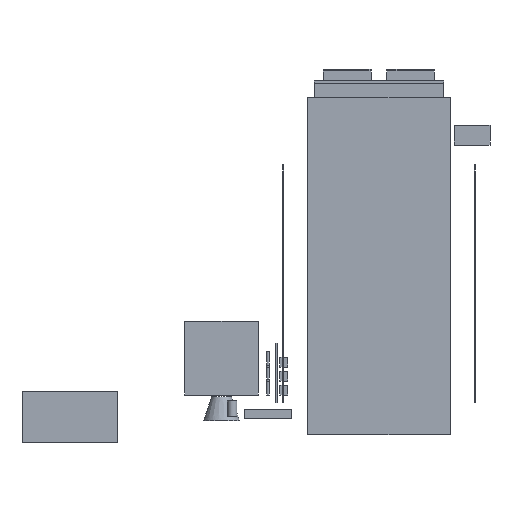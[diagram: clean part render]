
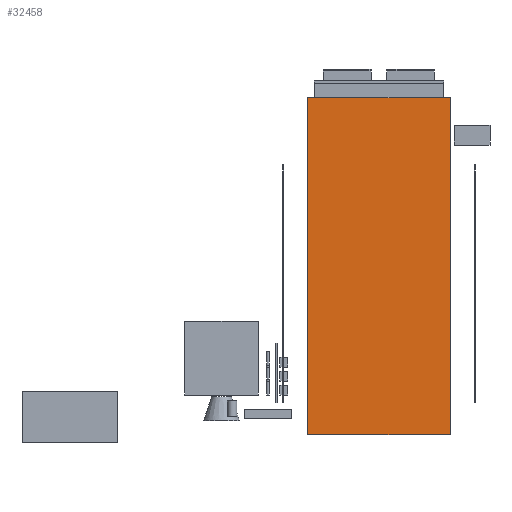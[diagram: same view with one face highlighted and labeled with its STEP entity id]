
A CAD part, front view. The second image highlights one B-rep face of the part: STEP entity #32458.
In plain terms, the highlighted planar face has unit normal (0, -1, 0).
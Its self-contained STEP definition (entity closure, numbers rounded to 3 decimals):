
#32242 = EDGE_CURVE('',#32243,#32245,#32247,.T.);
#32243 = VERTEX_POINT('',#32244);
#32244 = CARTESIAN_POINT('',(-180.,-36.,-80.));
#32245 = VERTEX_POINT('',#32246);
#32246 = CARTESIAN_POINT('',(-180.,-36.,770.));
#32247 = SURFACE_CURVE('',#32248,(#32252,#32264),.PCURVE_S1.);
#32248 = LINE('',#32249,#32250);
#32249 = CARTESIAN_POINT('',(-180.,-36.,-80.));
#32250 = VECTOR('',#32251,1.);
#32251 = DIRECTION('',(0.,0.,1.));
#32252 = PCURVE('',#32253,#32258);
#32253 = PLANE('',#32254);
#32254 = AXIS2_PLACEMENT_3D('',#32255,#32256,#32257);
#32255 = CARTESIAN_POINT('',(-180.,-36.,-80.));
#32256 = DIRECTION('',(1.,0.,0.));
#32257 = DIRECTION('',(0.,0.,1.));
#32258 = DEFINITIONAL_REPRESENTATION('',(#32259),#32263);
#32259 = LINE('',#32260,#32261);
#32260 = CARTESIAN_POINT('',(0.,0.));
#32261 = VECTOR('',#32262,1.);
#32262 = DIRECTION('',(1.,0.));
#32263 = ( GEOMETRIC_REPRESENTATION_CONTEXT(2) 
PARAMETRIC_REPRESENTATION_CONTEXT() REPRESENTATION_CONTEXT('2D SPACE',''
  ) );
#32264 = PCURVE('',#32265,#32270);
#32265 = PLANE('',#32266);
#32266 = AXIS2_PLACEMENT_3D('',#32267,#32268,#32269);
#32267 = CARTESIAN_POINT('',(-180.,-36.,-80.));
#32268 = DIRECTION('',(0.,1.,0.));
#32269 = DIRECTION('',(0.,0.,1.));
#32270 = DEFINITIONAL_REPRESENTATION('',(#32271),#32275);
#32271 = LINE('',#32272,#32273);
#32272 = CARTESIAN_POINT('',(0.,0.));
#32273 = VECTOR('',#32274,1.);
#32274 = DIRECTION('',(1.,0.));
#32275 = ( GEOMETRIC_REPRESENTATION_CONTEXT(2) 
PARAMETRIC_REPRESENTATION_CONTEXT() REPRESENTATION_CONTEXT('2D SPACE',''
  ) );
#32293 = PLANE('',#32294);
#32294 = AXIS2_PLACEMENT_3D('',#32295,#32296,#32297);
#32295 = CARTESIAN_POINT('',(-180.,-36.,-80.));
#32296 = DIRECTION('',(0.,0.,1.));
#32297 = DIRECTION('',(1.,0.,0.));
#32347 = PLANE('',#32348);
#32348 = AXIS2_PLACEMENT_3D('',#32349,#32350,#32351);
#32349 = CARTESIAN_POINT('',(-180.,-36.,770.));
#32350 = DIRECTION('',(0.,0.,1.));
#32351 = DIRECTION('',(1.,0.,0.));
#32362 = EDGE_CURVE('',#32363,#32365,#32367,.T.);
#32363 = VERTEX_POINT('',#32364);
#32364 = CARTESIAN_POINT('',(180.,-36.,-80.));
#32365 = VERTEX_POINT('',#32366);
#32366 = CARTESIAN_POINT('',(180.,-36.,770.));
#32367 = SURFACE_CURVE('',#32368,(#32372,#32384),.PCURVE_S1.);
#32368 = LINE('',#32369,#32370);
#32369 = CARTESIAN_POINT('',(180.,-36.,-80.));
#32370 = VECTOR('',#32371,1.);
#32371 = DIRECTION('',(0.,0.,1.));
#32372 = PCURVE('',#32373,#32378);
#32373 = PLANE('',#32374);
#32374 = AXIS2_PLACEMENT_3D('',#32375,#32376,#32377);
#32375 = CARTESIAN_POINT('',(180.,-36.,-80.));
#32376 = DIRECTION('',(1.,0.,0.));
#32377 = DIRECTION('',(0.,0.,1.));
#32378 = DEFINITIONAL_REPRESENTATION('',(#32379),#32383);
#32379 = LINE('',#32380,#32381);
#32380 = CARTESIAN_POINT('',(0.,0.));
#32381 = VECTOR('',#32382,1.);
#32382 = DIRECTION('',(1.,0.));
#32383 = ( GEOMETRIC_REPRESENTATION_CONTEXT(2) 
PARAMETRIC_REPRESENTATION_CONTEXT() REPRESENTATION_CONTEXT('2D SPACE',''
  ) );
#32384 = PCURVE('',#32265,#32385);
#32385 = DEFINITIONAL_REPRESENTATION('',(#32386),#32390);
#32386 = LINE('',#32387,#32388);
#32387 = CARTESIAN_POINT('',(0.,360.));
#32388 = VECTOR('',#32389,1.);
#32389 = DIRECTION('',(1.,0.));
#32390 = ( GEOMETRIC_REPRESENTATION_CONTEXT(2) 
PARAMETRIC_REPRESENTATION_CONTEXT() REPRESENTATION_CONTEXT('2D SPACE',''
  ) );
#32458 = ADVANCED_FACE('',(#32459),#32265,.F.);
#32459 = FACE_BOUND('',#32460,.F.);
#32460 = EDGE_LOOP('',(#32461,#32482,#32483,#32504));
#32461 = ORIENTED_EDGE('',*,*,#32462,.F.);
#32462 = EDGE_CURVE('',#32243,#32363,#32463,.T.);
#32463 = SURFACE_CURVE('',#32464,(#32468,#32475),.PCURVE_S1.);
#32464 = LINE('',#32465,#32466);
#32465 = CARTESIAN_POINT('',(-180.,-36.,-80.));
#32466 = VECTOR('',#32467,1.);
#32467 = DIRECTION('',(1.,0.,0.));
#32468 = PCURVE('',#32265,#32469);
#32469 = DEFINITIONAL_REPRESENTATION('',(#32470),#32474);
#32470 = LINE('',#32471,#32472);
#32471 = CARTESIAN_POINT('',(0.,0.));
#32472 = VECTOR('',#32473,1.);
#32473 = DIRECTION('',(0.,1.));
#32474 = ( GEOMETRIC_REPRESENTATION_CONTEXT(2) 
PARAMETRIC_REPRESENTATION_CONTEXT() REPRESENTATION_CONTEXT('2D SPACE',''
  ) );
#32475 = PCURVE('',#32293,#32476);
#32476 = DEFINITIONAL_REPRESENTATION('',(#32477),#32481);
#32477 = LINE('',#32478,#32479);
#32478 = CARTESIAN_POINT('',(0.,0.));
#32479 = VECTOR('',#32480,1.);
#32480 = DIRECTION('',(1.,0.));
#32481 = ( GEOMETRIC_REPRESENTATION_CONTEXT(2) 
PARAMETRIC_REPRESENTATION_CONTEXT() REPRESENTATION_CONTEXT('2D SPACE',''
  ) );
#32482 = ORIENTED_EDGE('',*,*,#32242,.T.);
#32483 = ORIENTED_EDGE('',*,*,#32484,.T.);
#32484 = EDGE_CURVE('',#32245,#32365,#32485,.T.);
#32485 = SURFACE_CURVE('',#32486,(#32490,#32497),.PCURVE_S1.);
#32486 = LINE('',#32487,#32488);
#32487 = CARTESIAN_POINT('',(-180.,-36.,770.));
#32488 = VECTOR('',#32489,1.);
#32489 = DIRECTION('',(1.,0.,0.));
#32490 = PCURVE('',#32265,#32491);
#32491 = DEFINITIONAL_REPRESENTATION('',(#32492),#32496);
#32492 = LINE('',#32493,#32494);
#32493 = CARTESIAN_POINT('',(850.,0.));
#32494 = VECTOR('',#32495,1.);
#32495 = DIRECTION('',(0.,1.));
#32496 = ( GEOMETRIC_REPRESENTATION_CONTEXT(2) 
PARAMETRIC_REPRESENTATION_CONTEXT() REPRESENTATION_CONTEXT('2D SPACE',''
  ) );
#32497 = PCURVE('',#32347,#32498);
#32498 = DEFINITIONAL_REPRESENTATION('',(#32499),#32503);
#32499 = LINE('',#32500,#32501);
#32500 = CARTESIAN_POINT('',(0.,0.));
#32501 = VECTOR('',#32502,1.);
#32502 = DIRECTION('',(1.,0.));
#32503 = ( GEOMETRIC_REPRESENTATION_CONTEXT(2) 
PARAMETRIC_REPRESENTATION_CONTEXT() REPRESENTATION_CONTEXT('2D SPACE',''
  ) );
#32504 = ORIENTED_EDGE('',*,*,#32362,.F.);
